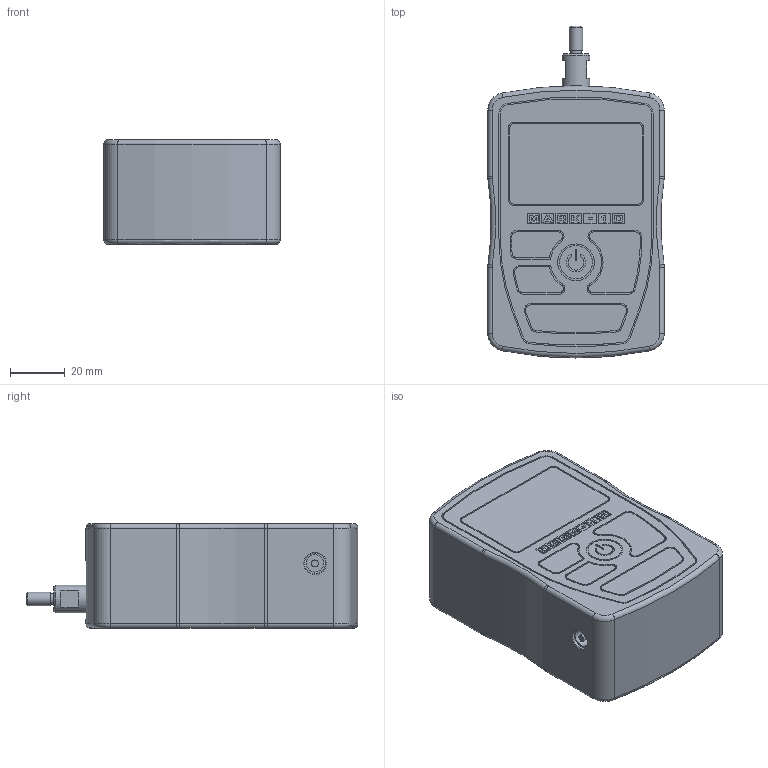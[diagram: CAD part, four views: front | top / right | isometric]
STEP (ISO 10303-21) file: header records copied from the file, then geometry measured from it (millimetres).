
FILE_DESCRIPTION(/* description */ (''),/* implementation_level */ '2;1');
FILE_NAME(/* name */ 'F:\MARKETING\SOLID MODELS\FORCE GAUGES\M2\M2.stp',/* time_stamp */ '2024-03-26T16:34:33-04:00',/* author */ ('ntakaki'),/* organization */ (''),/* preprocessor_version */ 'ST-DEVELOPER v18.1',/* originating_system */ 'AutoCAD Mechanical',/* authorisation */ '');
FILE_SCHEMA (('AUTOMOTIVE_DESIGN { 1 0 10303 214 3 1 1 }'));
Length unit declared in the file: inch
Products named in the file (1): Product
Bounding box: 64.26 x 120.9 x 38.1 mm (x, y, z)
Volume: 232540.7 mm3; surface area: 26906 mm2
Topology: 1 solids, 1 shells, 427 faces, 1059 edges, 690 vertices
Faces by surface type: plane 246, cylinder 142, torus 24, cone 13, bspline 2
Full cylindrical faces by diameter (mm): 2.5 x1, 3.505 x6, 3.81 x1, 4 x2, 4.775 x1, 4.826 x1, 5.486 x2, 6.299 x1, 6.35 x2, 7.62 x1, 10.16 x1, 11.43 x1, 11.938 x1, 12.065 x1, 12.7 x1, 13.335 x1
Entity records: 12795 total; most frequent: CARTESIAN_POINT 2300, DIRECTION 2258, ORIENTED_EDGE 2114, EDGE_CURVE 1057, AXIS2_PLACEMENT_3D 786, VERTEX_POINT 690, LINE 686, VECTOR 686
